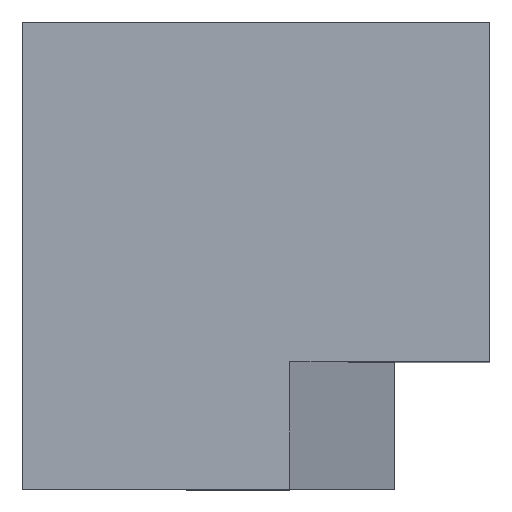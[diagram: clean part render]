
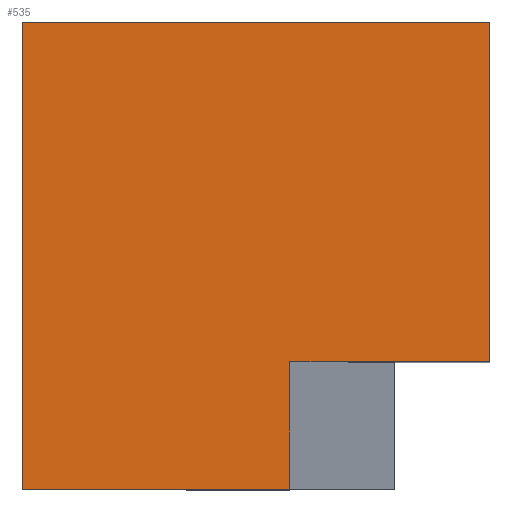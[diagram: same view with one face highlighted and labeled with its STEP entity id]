
A CAD part, top view. The second image highlights one B-rep face of the part: STEP entity #535.
In plain terms, the highlighted planar face has unit normal (0, 0, 1).
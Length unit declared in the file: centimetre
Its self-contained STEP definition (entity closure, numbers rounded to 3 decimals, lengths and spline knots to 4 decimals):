
#1 = DIRECTION ( 'NONE',  ( 0., -1., 0. ) ) ;
#37 = ORIENTED_EDGE ( 'NONE', *, *, #507, .T. ) ;
#58 = LINE ( 'NONE', #70, #606 ) ;
#70 = CARTESIAN_POINT ( 'NONE',  ( 0., 1000., 1000. ) ) ;
#75 = CARTESIAN_POINT ( 'NONE',  ( 572.6308, 272.7156, 1000. ) ) ;
#99 = CARTESIAN_POINT ( 'NONE',  ( 572.6308, 272.7156, 1000. ) ) ;
#117 = VECTOR ( 'NONE', #704, 100. ) ;
#119 = CARTESIAN_POINT ( 'NONE',  ( 1000., 1000., 1000. ) ) ;
#127 = DIRECTION ( 'NONE',  ( 1., 0., 0. ) ) ;
#142 = DIRECTION ( 'NONE',  ( 0., -1., 0. ) ) ;
#158 = CARTESIAN_POINT ( 'NONE',  ( 0., 0., 1000. ) ) ;
#196 = VECTOR ( 'NONE', #142, 100. ) ;
#204 = LINE ( 'NONE', #460, #117 ) ;
#211 = EDGE_CURVE ( 'NONE', #787, #236, #755, .T. ) ;
#236 = VERTEX_POINT ( 'NONE', #550 ) ;
#260 = ORIENTED_EDGE ( 'NONE', *, *, #530, .T. ) ;
#267 = VECTOR ( 'NONE', #749, 100. ) ;
#316 = CARTESIAN_POINT ( 'NONE',  ( 0., 0., 1000. ) ) ;
#349 = EDGE_CURVE ( 'NONE', #450, #787, #364, .T. ) ;
#355 = LINE ( 'NONE', #158, #560 ) ;
#363 = CARTESIAN_POINT ( 'NONE',  ( 0., 1000., 1000. ) ) ;
#364 = LINE ( 'NONE', #686, #267 ) ;
#420 = CARTESIAN_POINT ( 'NONE',  ( 0., 0., 1000. ) ) ;
#434 = VERTEX_POINT ( 'NONE', #119 ) ;
#447 = PLANE ( 'NONE',  #643 ) ;
#449 = EDGE_LOOP ( 'NONE', ( #457, #753, #37, #623, #260, #726 ) ) ;
#450 = VERTEX_POINT ( 'NONE', #615 ) ;
#457 = ORIENTED_EDGE ( 'NONE', *, *, #211, .F. ) ;
#460 = CARTESIAN_POINT ( 'NONE',  ( 1000., 1000., 1000. ) ) ;
#505 = VERTEX_POINT ( 'NONE', #512 ) ;
#507 = EDGE_CURVE ( 'NONE', #450, #434, #204, .T. ) ;
#512 = CARTESIAN_POINT ( 'NONE',  ( 0., 1000., 1000. ) ) ;
#530 = EDGE_CURVE ( 'NONE', #505, #632, #58, .T. ) ;
#535 = ADVANCED_FACE ( 'NONE', ( #746 ), #447, .T. ) ;
#545 = LINE ( 'NONE', #363, #656 ) ;
#550 = CARTESIAN_POINT ( 'NONE',  ( 572.6308, 0., 1000. ) ) ;
#560 = VECTOR ( 'NONE', #587, 100. ) ;
#587 = DIRECTION ( 'NONE',  ( 1., 0., 0. ) ) ;
#599 = DIRECTION ( 'NONE',  ( -1., 0., 0. ) ) ;
#606 = VECTOR ( 'NONE', #1, 100. ) ;
#615 = CARTESIAN_POINT ( 'NONE',  ( 1000., 272.7156, 1000. ) ) ;
#623 = ORIENTED_EDGE ( 'NONE', *, *, #676, .T. ) ;
#632 = VERTEX_POINT ( 'NONE', #420 ) ;
#643 = AXIS2_PLACEMENT_3D ( 'NONE', #316, #809, #127 ) ;
#656 = VECTOR ( 'NONE', #599, 100. ) ;
#676 = EDGE_CURVE ( 'NONE', #434, #505, #545, .T. ) ;
#686 = CARTESIAN_POINT ( 'NONE',  ( 1000., 272.7156, 1000. ) ) ;
#704 = DIRECTION ( 'NONE',  ( 0., 1., 0. ) ) ;
#726 = ORIENTED_EDGE ( 'NONE', *, *, #779, .T. ) ;
#746 = FACE_OUTER_BOUND ( 'NONE', #449, .T. ) ;
#749 = DIRECTION ( 'NONE',  ( -1., 0., 0. ) ) ;
#753 = ORIENTED_EDGE ( 'NONE', *, *, #349, .F. ) ;
#755 = LINE ( 'NONE', #75, #196 ) ;
#779 = EDGE_CURVE ( 'NONE', #632, #236, #355, .T. ) ;
#787 = VERTEX_POINT ( 'NONE', #99 ) ;
#809 = DIRECTION ( 'NONE',  ( 0., 0., 1. ) ) ;
